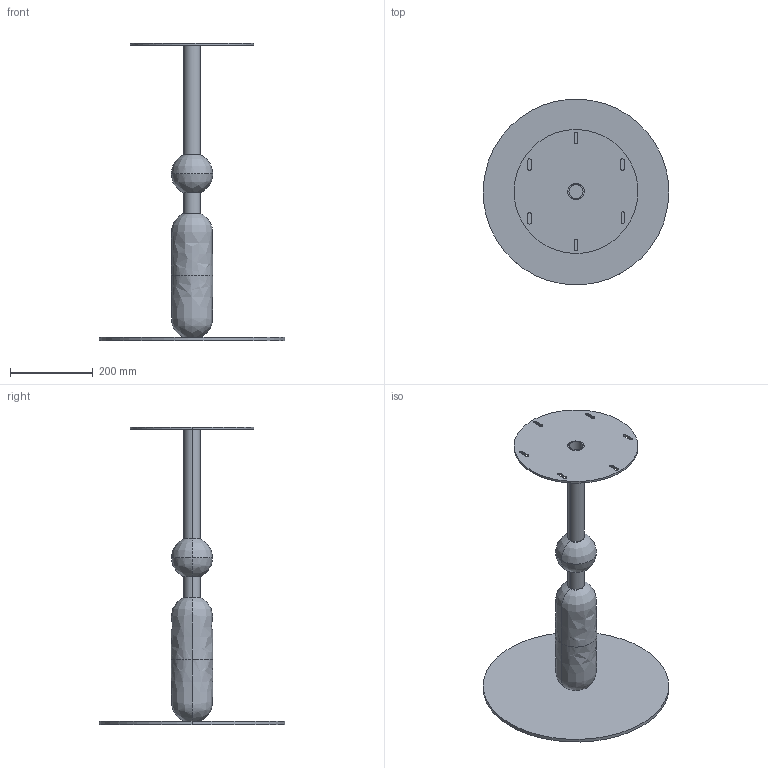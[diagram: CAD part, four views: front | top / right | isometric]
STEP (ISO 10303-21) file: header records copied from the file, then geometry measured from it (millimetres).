
FILE_DESCRIPTION(/* description */ (''),/* implementation_level */ '2;1');
FILE_NAME(/* name */ 'TOTEMI~1',/* time_stamp */ '2024-02-26T10:08:14+01:00',/* author */ (''),/* organization */ (''),/* preprocessor_version */ 'ST-DEVELOPER v16.5',/* originating_system */ '',/* authorisation */ '');
FILE_SCHEMA (('AUTOMOTIVE_DESIGN'));
Length unit declared in the file: millimetre
Products named in the file (1): Document
Bounding box: 450 x 449.61 x 720 mm (x, y, z)
Volume: 2038540.2 mm3; surface area: 808589.9 mm2
Topology: 4 solids, 6 shells, 64 faces, 155 edges, 98 vertices
Faces by surface type: bspline 46, plane 18
Entity records: 2321 total; most frequent: CARTESIAN_POINT 1392, ORIENTED_EDGE 300, EDGE_CURVE 154, VERTEX_POINT 96, EDGE_LOOP 80, ADVANCED_FACE 64, FACE_OUTER_BOUND 64, B_SPLINE_CURVE_WITH_KNOTS 49
